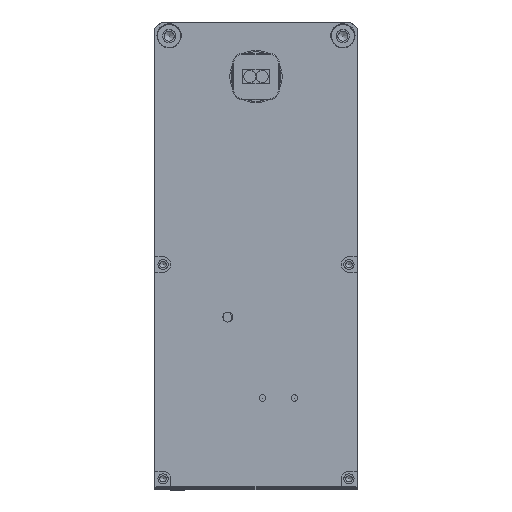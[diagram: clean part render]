
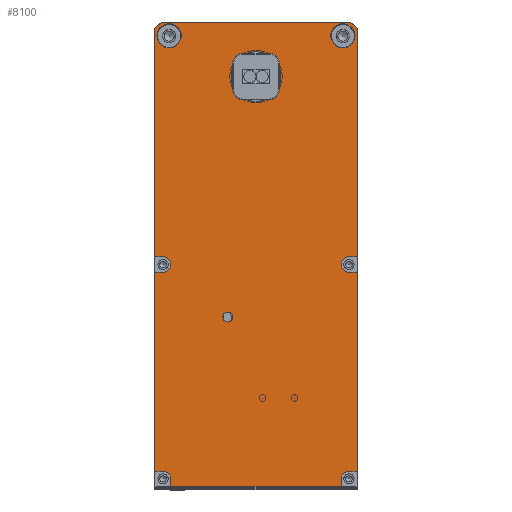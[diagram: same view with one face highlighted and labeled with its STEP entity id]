
A CAD part, top view. The second image highlights one B-rep face of the part: STEP entity #8100.
In plain terms, the highlighted planar face has unit normal (0, 0, 1).
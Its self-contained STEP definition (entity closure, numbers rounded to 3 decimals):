
#7718=CARTESIAN_POINT('',(19.23,-73.,0.0));
#7719=VERTEX_POINT('',#7718);
#7720=CARTESIAN_POINT('',(18.,-73.,0.0));
#7721=DIRECTION('',(0.0,0.0,-1.0));
#7722=DIRECTION('',(1.0,0.0,0.0));
#7723=AXIS2_PLACEMENT_3D('',#7720,#7721,#7722);
#7724=CIRCLE('',#7723,1.23);
#7725=EDGE_CURVE('',#7719,#7719,#7724,.T.);
#7745=CARTESIAN_POINT('',(3.9,-115.,0.0));
#7746=VERTEX_POINT('',#7745);
#7753=CARTESIAN_POINT('',(3.9,-113.,0.0));
#7754=VERTEX_POINT('',#7753);
#7755=CARTESIAN_POINT('',(3.9,-113.,0.0));
#7756=DIRECTION('',(0.0,-1.0,0.0));
#7757=VECTOR('',#7756,2.0);
#7758=LINE('',#7755,#7757);
#7759=EDGE_CURVE('',#7754,#7746,#7758,.T.);
#7785=CARTESIAN_POINT('',(2.,-111.1,0.0));
#7786=VERTEX_POINT('',#7785);
#7793=CARTESIAN_POINT('',(0.,-111.1,0.0));
#7794=VERTEX_POINT('',#7793);
#7795=CARTESIAN_POINT('',(0.,-111.1,0.0));
#7796=DIRECTION('',(1.0,0.0,0.0));
#7797=VECTOR('',#7796,2.);
#7798=LINE('',#7795,#7797);
#7799=EDGE_CURVE('',#7794,#7786,#7798,.T.);
#7825=CARTESIAN_POINT('',(50.0,-111.1,0.0));
#7826=VERTEX_POINT('',#7825);
#7833=CARTESIAN_POINT('',(48.,-111.1,0.0));
#7834=VERTEX_POINT('',#7833);
#7835=CARTESIAN_POINT('',(48.,-111.1,0.0));
#7836=DIRECTION('',(1.0,0.0,0.0));
#7837=VECTOR('',#7836,2.);
#7838=LINE('',#7835,#7837);
#7839=EDGE_CURVE('',#7834,#7826,#7838,.T.);
#7865=CARTESIAN_POINT('',(46.1,-113.0,0.0));
#7866=VERTEX_POINT('',#7865);
#7873=CARTESIAN_POINT('',(46.1,-115.,0.0));
#7874=VERTEX_POINT('',#7873);
#7875=CARTESIAN_POINT('',(46.1,-115.,0.0));
#7876=DIRECTION('',(0.0,1.0,0.0));
#7877=VECTOR('',#7876,2.);
#7878=LINE('',#7875,#7877);
#7879=EDGE_CURVE('',#7874,#7866,#7878,.T.);
#7917=CARTESIAN_POINT('',(48.,-113.0,0.0));
#7918=DIRECTION('',(0.0,0.0,-1.0));
#7919=DIRECTION('',(1.0,0.0,0.0));
#7920=AXIS2_PLACEMENT_3D('',#7917,#7918,#7919);
#7921=CIRCLE('',#7920,1.9);
#7922=EDGE_CURVE('',#7866,#7834,#7921,.T.);
#7935=CARTESIAN_POINT('',(25.0,-57.5,0.0));
#7936=DIRECTION('',(0.0,0.0,1.0));
#7937=DIRECTION('',(1.0,0.0,0.0));
#7938=AXIS2_PLACEMENT_3D('',#7935,#7936,#7937);
#7939=PLANE('',#7938);
#7940=ORIENTED_EDGE('',*,*,#7799,.T.);
#7941=CARTESIAN_POINT('',(2.,-113.,0.0));
#7942=DIRECTION('',(0.0,0.0,-1.0));
#7943=DIRECTION('',(1.0,0.0,0.0));
#7944=AXIS2_PLACEMENT_3D('',#7941,#7942,#7943);
#7945=CIRCLE('',#7944,1.9);
#7946=EDGE_CURVE('',#7786,#7754,#7945,.T.);
#7947=ORIENTED_EDGE('',*,*,#7946,.T.);
#7948=ORIENTED_EDGE('',*,*,#7759,.T.);
#7949=CARTESIAN_POINT('',(46.1,-115.,0.0));
#7950=DIRECTION('',(-1.0,0.0,0.0));
#7951=VECTOR('',#7950,42.2);
#7952=LINE('',#7949,#7951);
#7953=EDGE_CURVE('',#7874,#7746,#7952,.T.);
#7954=ORIENTED_EDGE('',*,*,#7953,.F.);
#7955=ORIENTED_EDGE('',*,*,#7879,.T.);
#7956=ORIENTED_EDGE('',*,*,#7922,.T.);
#7957=ORIENTED_EDGE('',*,*,#7839,.T.);
#7958=CARTESIAN_POINT('',(50.0,-61.9,0.0));
#7959=VERTEX_POINT('',#7958);
#7960=CARTESIAN_POINT('',(50.0,-61.9,0.0));
#7961=DIRECTION('',(0.0,-1.0,0.0));
#7962=VECTOR('',#7961,49.2);
#7963=LINE('',#7960,#7962);
#7964=EDGE_CURVE('',#7959,#7826,#7963,.T.);
#7965=ORIENTED_EDGE('',*,*,#7964,.F.);
#7966=CARTESIAN_POINT('',(48.,-61.9,0.0));
#7967=VERTEX_POINT('',#7966);
#7968=CARTESIAN_POINT('',(50.0,-61.9,0.0));
#7969=DIRECTION('',(-1.0,0.0,0.0));
#7970=VECTOR('',#7969,2.);
#7971=LINE('',#7968,#7970);
#7972=EDGE_CURVE('',#7959,#7967,#7971,.T.);
#7973=ORIENTED_EDGE('',*,*,#7972,.T.);
#7974=CARTESIAN_POINT('',(48.,-58.1,0.0));
#7975=VERTEX_POINT('',#7974);
#7976=CARTESIAN_POINT('',(48.,-60.,0.0));
#7977=DIRECTION('',(0.0,0.0,-1.0));
#7978=DIRECTION('',(1.0,0.0,0.0));
#7979=AXIS2_PLACEMENT_3D('',#7976,#7977,#7978);
#7980=CIRCLE('',#7979,1.9);
#7981=EDGE_CURVE('',#7967,#7975,#7980,.T.);
#7982=ORIENTED_EDGE('',*,*,#7981,.T.);
#7983=CARTESIAN_POINT('',(50.0,-58.1,0.0));
#7984=VERTEX_POINT('',#7983);
#7985=CARTESIAN_POINT('',(48.,-58.1,0.0));
#7986=DIRECTION('',(1.0,0.0,0.0));
#7987=VECTOR('',#7986,2.);
#7988=LINE('',#7985,#7987);
#7989=EDGE_CURVE('',#7975,#7984,#7988,.T.);
#7990=ORIENTED_EDGE('',*,*,#7989,.T.);
#7991=CARTESIAN_POINT('',(50.0,-1.5,0.0));
#7992=VERTEX_POINT('',#7991);
#7993=CARTESIAN_POINT('',(50.0,-1.5,0.0));
#7994=DIRECTION('',(0.0,-1.0,0.0));
#7995=VECTOR('',#7994,56.6);
#7996=LINE('',#7993,#7995);
#7997=EDGE_CURVE('',#7992,#7984,#7996,.T.);
#7998=ORIENTED_EDGE('',*,*,#7997,.F.);
#7999=CARTESIAN_POINT('',(48.5,0.0,0.0));
#8000=VERTEX_POINT('',#7999);
#8001=CARTESIAN_POINT('',(48.5,0.0,0.0));
#8002=DIRECTION('',(0.707,-0.707,0.0));
#8003=VECTOR('',#8002,2.121);
#8004=LINE('',#8001,#8003);
#8005=EDGE_CURVE('',#8000,#7992,#8004,.T.);
#8006=ORIENTED_EDGE('',*,*,#8005,.F.);
#8007=CARTESIAN_POINT('',(1.5,0.0,0.0));
#8008=VERTEX_POINT('',#8007);
#8009=CARTESIAN_POINT('',(1.5,0.0,0.0));
#8010=DIRECTION('',(1.0,0.0,0.0));
#8011=VECTOR('',#8010,47.);
#8012=LINE('',#8009,#8011);
#8013=EDGE_CURVE('',#8008,#8000,#8012,.T.);
#8014=ORIENTED_EDGE('',*,*,#8013,.F.);
#8015=CARTESIAN_POINT('',(0.,-1.5,0.0));
#8016=VERTEX_POINT('',#8015);
#8017=CARTESIAN_POINT('',(0.,-1.5,0.0));
#8018=DIRECTION('',(0.707,0.707,0.0));
#8019=VECTOR('',#8018,2.121);
#8020=LINE('',#8017,#8019);
#8021=EDGE_CURVE('',#8016,#8008,#8020,.T.);
#8022=ORIENTED_EDGE('',*,*,#8021,.F.);
#8023=CARTESIAN_POINT('',(0.,-58.1,0.0));
#8024=VERTEX_POINT('',#8023);
#8025=CARTESIAN_POINT('',(0.,-58.1,0.0));
#8026=DIRECTION('',(0.0,1.0,0.0));
#8027=VECTOR('',#8026,56.6);
#8028=LINE('',#8025,#8027);
#8029=EDGE_CURVE('',#8024,#8016,#8028,.T.);
#8030=ORIENTED_EDGE('',*,*,#8029,.F.);
#8031=CARTESIAN_POINT('',(2.,-58.1,0.0));
#8032=VERTEX_POINT('',#8031);
#8033=CARTESIAN_POINT('',(0.,-58.1,0.0));
#8034=DIRECTION('',(1.0,0.0,0.0));
#8035=VECTOR('',#8034,2.);
#8036=LINE('',#8033,#8035);
#8037=EDGE_CURVE('',#8024,#8032,#8036,.T.);
#8038=ORIENTED_EDGE('',*,*,#8037,.T.);
#8039=CARTESIAN_POINT('',(2.,-61.9,0.0));
#8040=VERTEX_POINT('',#8039);
#8041=CARTESIAN_POINT('',(2.,-60.,0.0));
#8042=DIRECTION('',(0.0,0.0,-1.0));
#8043=DIRECTION('',(1.0,0.0,0.0));
#8044=AXIS2_PLACEMENT_3D('',#8041,#8042,#8043);
#8045=CIRCLE('',#8044,1.9);
#8046=EDGE_CURVE('',#8032,#8040,#8045,.T.);
#8047=ORIENTED_EDGE('',*,*,#8046,.T.);
#8048=CARTESIAN_POINT('',(0.,-61.9,0.0));
#8049=VERTEX_POINT('',#8048);
#8050=CARTESIAN_POINT('',(2.,-61.9,0.0));
#8051=DIRECTION('',(-1.0,0.0,0.0));
#8052=VECTOR('',#8051,2.);
#8053=LINE('',#8050,#8052);
#8054=EDGE_CURVE('',#8040,#8049,#8053,.T.);
#8055=ORIENTED_EDGE('',*,*,#8054,.T.);
#8056=CARTESIAN_POINT('',(0.,-111.1,0.0));
#8057=DIRECTION('',(0.0,1.0,0.0));
#8058=VECTOR('',#8057,49.2);
#8059=LINE('',#8056,#8058);
#8060=EDGE_CURVE('',#7794,#8049,#8059,.T.);
#8061=ORIENTED_EDGE('',*,*,#8060,.F.);
#8062=EDGE_LOOP('',(#7940,#7947,#7948,#7954,#7955,#7956,#7957,#7965,#7973,#7982,#7990,#7998,#8006,#8014,#8022,#8030,#8038,#8047,#8055,#8061));
#8063=FACE_OUTER_BOUND('',#8062,.T.);
#8064=ORIENTED_EDGE('',*,*,#7725,.T.);
#8065=EDGE_LOOP('',(#8064));
#8066=FACE_BOUND('',#8065,.T.);
#8067=CARTESIAN_POINT('',(6.5,-3.4,0.0));
#8068=VERTEX_POINT('',#8067);
#8069=CARTESIAN_POINT('',(3.5,-3.4,0.0));
#8070=DIRECTION('',(0.0,0.0,-1.0));
#8071=DIRECTION('',(1.0,0.0,0.0));
#8072=AXIS2_PLACEMENT_3D('',#8069,#8070,#8071);
#8073=CIRCLE('',#8072,3.);
#8074=EDGE_CURVE('',#8068,#8068,#8073,.T.);
#8075=ORIENTED_EDGE('',*,*,#8074,.T.);
#8076=EDGE_LOOP('',(#8075));
#8077=FACE_BOUND('',#8076,.T.);
#8078=CARTESIAN_POINT('',(49.5,-3.4,0.0));
#8079=VERTEX_POINT('',#8078);
#8080=CARTESIAN_POINT('',(46.5,-3.4,0.0));
#8081=DIRECTION('',(0.0,0.0,-1.0));
#8082=DIRECTION('',(1.0,0.0,0.0));
#8083=AXIS2_PLACEMENT_3D('',#8080,#8081,#8082);
#8084=CIRCLE('',#8083,3.);
#8085=EDGE_CURVE('',#8079,#8079,#8084,.T.);
#8086=ORIENTED_EDGE('',*,*,#8085,.T.);
#8087=EDGE_LOOP('',(#8086));
#8088=FACE_BOUND('',#8087,.T.);
#8089=CARTESIAN_POINT('',(31.15,-13.5,0.0));
#8090=VERTEX_POINT('',#8089);
#8091=CARTESIAN_POINT('',(25.0,-13.5,0.0));
#8092=DIRECTION('',(0.0,0.0,-1.0));
#8093=DIRECTION('',(-1.0,0.0,0.0));
#8094=AXIS2_PLACEMENT_3D('',#8091,#8092,#8093);
#8095=CIRCLE('',#8094,6.15);
#8096=EDGE_CURVE('',#8090,#8090,#8095,.T.);
#8097=ORIENTED_EDGE('',*,*,#8096,.T.);
#8098=EDGE_LOOP('',(#8097));
#8099=FACE_BOUND('',#8098,.T.);
#8100=ADVANCED_FACE('',(#8063,#8066,#8077,#8088,#8099),#7939,.T.);
